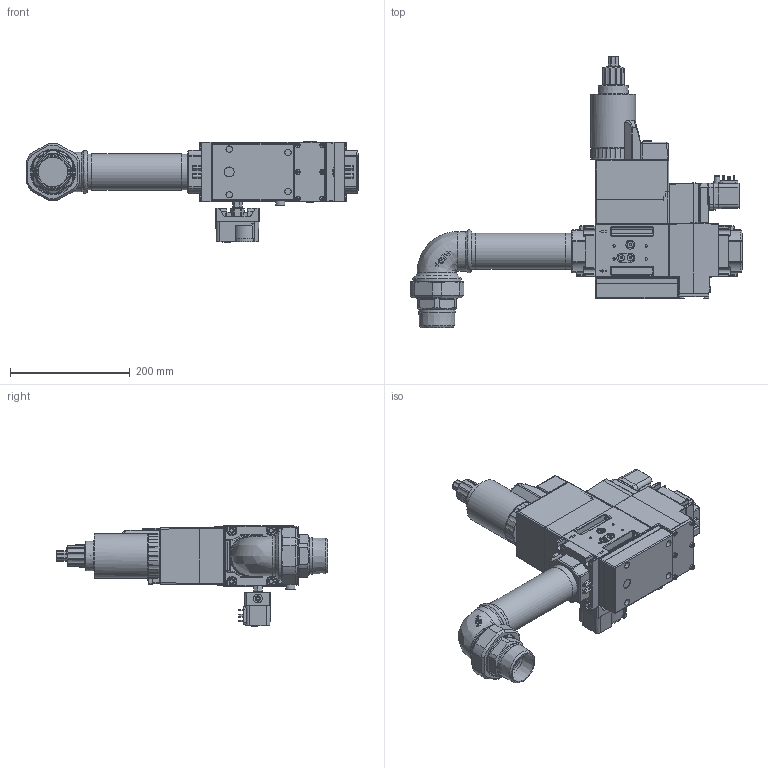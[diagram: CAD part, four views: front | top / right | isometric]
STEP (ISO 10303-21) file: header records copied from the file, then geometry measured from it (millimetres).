
FILE_DESCRIPTION (( 'STEP AP214' ), '1' );
FILE_NAME ('19990709.STEP', '2026-10-09T12:04:00', ( '' ), ( '' ), 'SwSTEP 2.0', 'SolidWorks 2025', '' );
FILE_SCHEMA (( 'AUTOMOTIVE_DESIGN' ));
Length unit declared in the file: millimetre
Products named in the file (1): 19990709
Bounding box: 554.5 x 454 x 167.58 mm (x, y, z)
Volume: 5627622.6 mm3; surface area: 567142.2 mm2
Topology: 14 solids, 14 shells, 2827 faces, 7004 edges, 4292 vertices
Faces by surface type: plane 1128, cylinder 793, bspline 569, cone 246, torus 67, sphere 24
Full cylindrical faces by diameter (mm): 0.7 x2, 1.5 x4, 2 x2, 2.5 x8, 3.7 x3, 4 x4, 4.5 x2, 4.8 x1, 6.2 x1, 6.647 x8, 6.75 x2, 6.917 x8, 7 x1, 8 x3, 8.5 x7, 8.57 x1, 9 x2, 9.73 x1, 10 x3, 10.5 x6, 10.6 x1, 10.96 x2, 11 x7, 12.5 x2, 13.16 x1, 15 x4, 15.2 x1, 15.3 x1, 26 x2, 36.15 x2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
Entity records: 136630 total; most frequent: CARTESIAN_POINT 77387, ORIENTED_EDGE 13066, DIRECTION 10105, EDGE_CURVE 6533, VERTEX_POINT 4186, AXIS2_PLACEMENT_3D 3568, EDGE_LOOP 3351, FACE_OUTER_BOUND 2970
